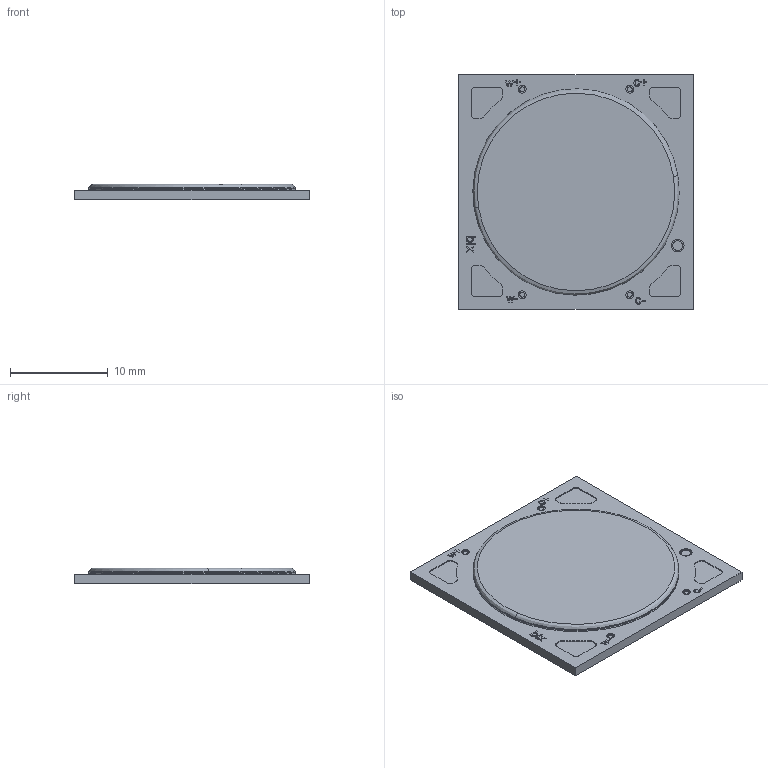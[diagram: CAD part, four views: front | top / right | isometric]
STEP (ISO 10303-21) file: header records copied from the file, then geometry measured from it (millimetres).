
FILE_DESCRIPTION (( 'STEP AP214' ), '1' );
FILE_NAME ('NTW18-G3 Assembly.STEP', '2025-01-09T01:38:24', ( '' ), ( '' ), 'SwSTEP 2.0', 'SolidWorks 2018', '' );
FILE_SCHEMA (( 'AUTOMOTIVE_DESIGN' ));
Length unit declared in the file: millimetre
Products named in the file (1): NTW18-G3 Assembly
Bounding box: 24 x 24 x 1.6 mm (x, y, z)
Volume: 779.1 mm3; surface area: 1282.5 mm2
Topology: 1 solids, 1 shells, 189 faces, 484 edges, 324 vertices
Faces by surface type: plane 132, cylinder 42, bspline 9, torus 6
Entity records: 8020 total; most frequent: CARTESIAN_POINT 1333, ORIENTED_EDGE 968, DIRECTION 902, EDGE_CURVE 484, LINE 340, VECTOR 340, VERTEX_POINT 324, AXIS2_PLACEMENT_3D 281
